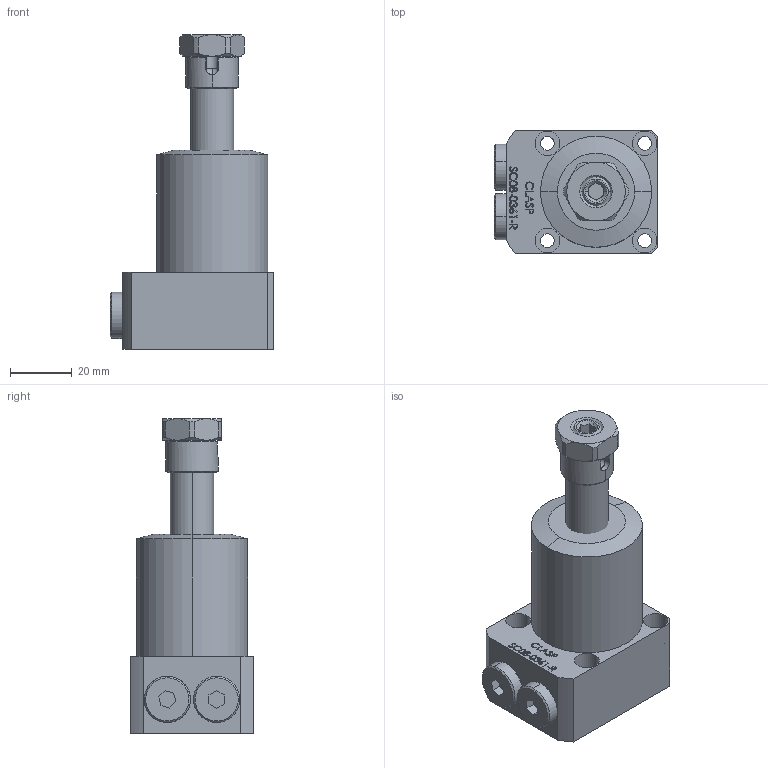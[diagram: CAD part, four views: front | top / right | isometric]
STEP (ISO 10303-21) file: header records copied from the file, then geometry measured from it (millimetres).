
FILE_DESCRIPTION (( 'STEP AP203' ), '1' );
FILE_NAME ('SC08-0361-R.STEP', '2022-07-08T17:15:04', ( '' ), ( '' ), 'SwSTEP 2.0', 'SolidWorks 2017', '' );
FILE_SCHEMA (( 'CONFIG_CONTROL_DESIGN' ));
Length unit declared in the file: millimetre
Products named in the file (6): SC-08-0361-R-03-nut; SC08-0361-R; SC-08-0361-R BODY; SC-08-0361-R-Piston; SC-08-0361-R-05 plug; SC-08-0361-R-04 sleeve
Assembly tree (6 placements, depth 2):
  SC08-0361-R
    SC-08-0361-R BODY
    SC-08-0361-R-Piston
    SC-08-0361-R-05 plug  x2
    SC-08-0361-R-04 sleeve
    SC-08-0361-R-03-nut
Bounding box: 53 x 40 x 102 mm (x, y, z)
Volume: 97317.5 mm3; surface area: 22156.8 mm2
Topology: 6 solids, 6 shells, 379 faces, 932 edges, 607 vertices
Faces by surface type: plane 157, bspline 117, cylinder 62, cone 41, sphere 2
Entity records: 18136 total; most frequent: CARTESIAN_POINT 9563, ORIENTED_EDGE 1800, DIRECTION 1296, EDGE_CURVE 900, VERTEX_POINT 587, LINE 456, VECTOR 456, AXIS2_PLACEMENT_3D 420
